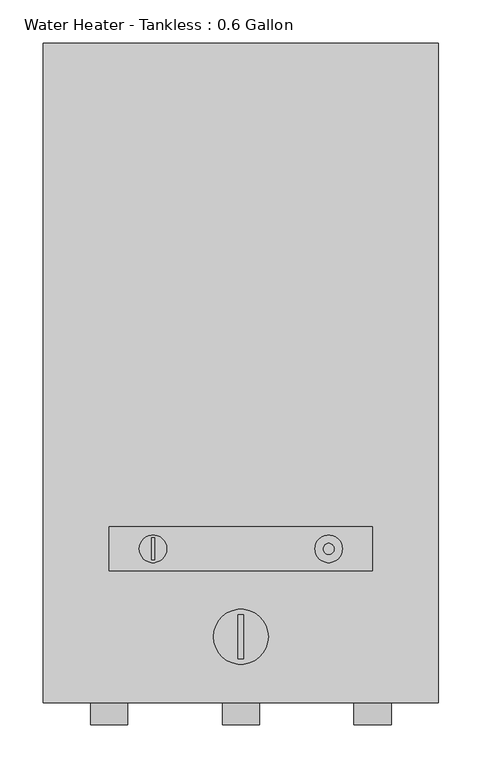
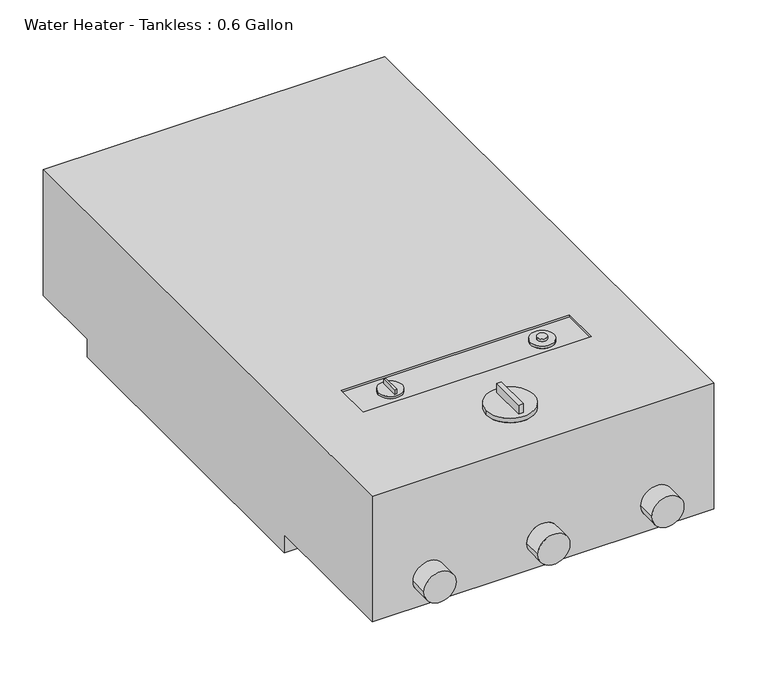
"""IFC4 building model written with IfcOpenShell, lengths in millimetres: proxy geometry, Water Heater - Tankless : 0.6 Gallon."""

from ifc_helpers import new_model, si_unit, point, frame, frame_2d, origin, place, context, project, spatial, circle_curve, trimmed, segment, composite_curve, outline, extrude, source, transform, mapped, element, save
from ifc_brep_helpers import plane_surface, cylinder_surface, advanced_brep


def water_heater_tankless_0_6_gallon_c20ab9af(model_context):
    return source(origin(), model_context, "Body", "SolidModel", [
        advanced_brep(
        [(228.6, 762.0, 25.4), (228.6, 762.0, 203.2), (228.6, 0.0, 203.2), (228.6, 0.0, 25.4), (228.6, 203.2, 25.4), (228.6, 203.2, 0.0), (228.6, 660.4, 0.0), (228.6, 660.4, 25.4), (-228.6, 762.0, 25.4), (-228.6, 660.4, 25.4), (-228.6, 660.4, 0.0), (-228.6, 203.2, 0.0), (-228.6, 203.2, 25.4), (-228.6, 0.0, 25.4), (-228.6, 0.0, 203.2), (-228.6, 762.0, 203.2), (-152.4, 203.2, 203.2), (152.4, 203.2, 203.2), (152.4, 152.4, 203.2), (-152.4, 152.4, 203.2), (31.75, 76.2, 203.2), (-31.75, 76.2, 203.2), (-130.96875, 0.0, 63.5), (-173.83125, 0.0, 63.5), (21.43125, 0.0, 63.5), (-21.43125, 0.0, 63.5), (173.83125, 0.0, 63.5), (130.96875, 0.0, 63.5), (152.4, 203.2, 200.025), (-152.4, 203.2, 200.025), (-152.4, 152.4, 200.025), (152.4, 152.4, 200.025), (-85.725, 177.8, 200.025), (-117.475, 177.8, 200.025), (117.475, 177.8, 200.025), (85.725, 177.8, 200.025), (-173.83125, -25.4, 63.5), (-130.96875, -25.4, 63.5), (-21.43125, -25.4, 63.5), (21.43125, -25.4, 63.5), (130.96875, -25.4, 63.5), (173.83125, -25.4, 63.5), (-117.475, 177.8, 203.2), (-85.725, 177.8, 203.2), (-103.1875, 190.5, 203.2), (-100.0125, 190.5, 203.2), (-100.0125, 165.1, 203.2), (-103.1875, 165.1, 203.2), (85.725, 177.8, 203.2), (117.475, 177.8, 203.2), (107.95, 177.8, 203.2), (95.25, 177.8, 203.2), (95.25, 177.8, 206.375), (107.95, 177.8, 206.375), (-100.0125, 190.5, 209.55), (-103.1875, 190.5, 209.55), (-103.1875, 165.1, 209.55), (-100.0125, 165.1, 209.55), (-31.75, 76.2, 209.55), (31.75, 76.2, 209.55), (-3.175, 101.6, 209.55), (3.175, 101.6, 209.55), (3.175, 50.8, 209.55), (-3.175, 50.8, 209.55), (3.175, 101.6, 222.25), (-3.175, 101.6, 222.25), (-3.175, 50.8, 222.25), (3.175, 50.8, 222.25)],
        [
            (0, 1),
            (1, 2),
            (2, 3),
            (3, 4),
            (4, 5),
            (5, 6),
            (6, 7),
            (7, 0),
            (8, 9),
            (9, 10),
            (10, 11),
            (11, 12),
            (12, 13),
            (13, 14),
            (14, 15),
            (15, 8),
            (0, 8),
            (15, 1),
            (14, 2),
            (16, 17),
            (17, 18),
            (18, 19),
            (19, 16),
            (20, 21, circle_curve(frame((0.0, 76.2, 203.2), z_axis=(0.0, 0.0, -1.0), x_axis=(1.0, 0.0, 0.0)), 31.75)),
            (21, 20, circle_curve(frame((0.0, 76.2, 203.2), z_axis=(0.0, 0.0, -1.0), x_axis=(1.0, 0.0, 0.0)), 31.75)),
            (13, 3),
            (22, 23, circle_curve(frame((-152.4, 0.0, 63.5), z_axis=(0.0, 1.0, 0.0), x_axis=(1.0, 0.0, 0.0)), 21.43125)),
            (23, 22, circle_curve(frame((-152.4, 0.0, 63.5), z_axis=(0.0, 1.0, 0.0), x_axis=(1.0, 0.0, 0.0)), 21.43125)),
            (24, 25, circle_curve(frame((0.0, 0.0, 63.5), z_axis=(0.0, 1.0, 0.0), x_axis=(1.0, 0.0, 0.0)), 21.43125)),
            (25, 24, circle_curve(frame((0.0, 0.0, 63.5), z_axis=(0.0, 1.0, 0.0), x_axis=(1.0, 0.0, 0.0)), 21.43125)),
            (26, 27, circle_curve(frame((152.4, 0.0, 63.5), z_axis=(0.0, 1.0, 0.0), x_axis=(1.0, 0.0, 0.0)), 21.43125)),
            (27, 26, circle_curve(frame((152.4, 0.0, 63.5), z_axis=(0.0, 1.0, 0.0), x_axis=(1.0, 0.0, 0.0)), 21.43125)),
            (12, 4),
            (11, 5),
            (10, 6),
            (9, 7),
            (28, 29),
            (29, 30),
            (30, 31),
            (31, 28),
            (32, 33, circle_curve(frame((-101.6, 177.8, 200.025), z_axis=(0.0, 0.0, -1.0), x_axis=(1.0, 0.0, 0.0)), 15.875)),
            (33, 32, circle_curve(frame((-101.6, 177.8, 200.025), z_axis=(0.0, 0.0, -1.0), x_axis=(1.0, 0.0, 0.0)), 15.875)),
            (34, 35, circle_curve(frame((101.6, 177.8, 200.025), z_axis=(0.0, 0.0, -1.0), x_axis=(1.0, 0.0, 0.0)), 15.875)),
            (35, 34, circle_curve(frame((101.6, 177.8, 200.025), z_axis=(0.0, 0.0, -1.0), x_axis=(1.0, 0.0, 0.0)), 15.875)),
            (28, 17),
            (16, 29),
            (19, 30),
            (18, 31),
            (36, 37, circle_curve(frame((-152.4, -25.4, 63.5), z_axis=(0.0, -1.0, 0.0), x_axis=(1.0, 0.0, 0.0)), 21.43125)),
            (37, 36, circle_curve(frame((-152.4, -25.4, 63.5), z_axis=(0.0, -1.0, 0.0), x_axis=(1.0, 0.0, 0.0)), 21.43125)),
            (38, 39, circle_curve(frame((0.0, -25.4, 63.5), z_axis=(0.0, -1.0, 0.0), x_axis=(1.0, 0.0, 0.0)), 21.43125)),
            (39, 38, circle_curve(frame((0.0, -25.4, 63.5), z_axis=(0.0, -1.0, 0.0), x_axis=(1.0, 0.0, 0.0)), 21.43125)),
            (40, 41, circle_curve(frame((152.4, -25.4, 63.5), z_axis=(0.0, -1.0, 0.0), x_axis=(1.0, 0.0, 0.0)), 21.43125)),
            (41, 40, circle_curve(frame((152.4, -25.4, 63.5), z_axis=(0.0, -1.0, 0.0), x_axis=(1.0, 0.0, 0.0)), 21.43125)),
            (36, 23),
            (22, 37),
            (38, 25),
            (24, 39),
            (40, 27),
            (26, 41),
            (42, 43, circle_curve(frame((-101.6, 177.8, 203.2), z_axis=(0.0, 0.0, 1.0), x_axis=(1.0, 0.0, 0.0)), 15.875)),
            (43, 42, circle_curve(frame((-101.6, 177.8, 203.2), z_axis=(0.0, 0.0, 1.0), x_axis=(1.0, 0.0, 0.0)), 15.875)),
            (44, 45),
            (45, 46),
            (46, 47),
            (47, 44),
            (48, 49, circle_curve(frame((101.6, 177.8, 203.2), z_axis=(0.0, 0.0, 1.0), x_axis=(1.0, 0.0, 0.0)), 15.875)),
            (49, 48, circle_curve(frame((101.6, 177.8, 203.2), z_axis=(0.0, 0.0, 1.0), x_axis=(1.0, 0.0, 0.0)), 15.875)),
            (50, 51, circle_curve(frame((101.6, 177.8, 203.2), z_axis=(0.0, 0.0, -1.0), x_axis=(1.0, 0.0, 0.0)), 6.35)),
            (51, 50, circle_curve(frame((101.6, 177.8, 203.2), z_axis=(0.0, 0.0, -1.0), x_axis=(1.0, 0.0, 0.0)), 6.35)),
            (42, 33),
            (32, 43),
            (48, 35),
            (34, 49),
            (52, 53, circle_curve(frame((101.6, 177.8, 206.375), z_axis=(0.0, 0.0, 1.0), x_axis=(1.0, 0.0, 0.0)), 6.35)),
            (53, 52, circle_curve(frame((101.6, 177.8, 206.375), z_axis=(0.0, 0.0, 1.0), x_axis=(1.0, 0.0, 0.0)), 6.35)),
            (52, 51),
            (50, 53),
            (54, 55),
            (55, 56),
            (56, 57),
            (57, 54),
            (54, 45),
            (44, 55),
            (47, 56),
            (46, 57),
            (58, 59, circle_curve(frame((0.0, 76.2, 209.55), z_axis=(0.0, 0.0, 1.0), x_axis=(1.0, 0.0, 0.0)), 31.75)),
            (59, 58, circle_curve(frame((0.0, 76.2, 209.55), z_axis=(0.0, 0.0, 1.0), x_axis=(1.0, 0.0, 0.0)), 31.75)),
            (60, 61),
            (61, 62),
            (62, 63),
            (63, 60),
            (58, 21),
            (20, 59),
            (64, 65),
            (65, 66),
            (66, 67),
            (67, 64),
            (64, 61),
            (60, 65),
            (63, 66),
            (62, 67),
        ],
        [
            plane_surface(frame((228.6, 762.0, 203.2), z_axis=(1.0, 0.0, 0.0), x_axis=(0.0, 0.0, 1.0))),
            plane_surface(frame((-228.6, 762.0, 203.2), z_axis=(-1.0, 0.0, 0.0), x_axis=(0.0, 0.0, -1.0))),
            plane_surface(frame((228.6, 762.0, 25.4), z_axis=(0.0, 1.0, 0.0), x_axis=(-1.0, 0.0, 0.0))),
            plane_surface(frame((228.6, 762.0, 203.2), z_axis=(0.0, 0.0, 1.0), x_axis=(-1.0, 0.0, 0.0))),
            plane_surface(frame((228.6, 0.0, 203.2), z_axis=(0.0, -1.0, 0.0), x_axis=(-1.0, 0.0, 0.0))),
            plane_surface(frame((228.6, 0.0, 25.4), z_axis=(0.0, 0.0, -1.0), x_axis=(-1.0, 0.0, 0.0))),
            plane_surface(frame((228.6, 203.2, 25.4), z_axis=(0.0, -1.0, 0.0), x_axis=(-1.0, 0.0, 0.0))),
            plane_surface(frame((228.6, 203.2, 0.0), z_axis=(0.0, 0.0, -1.0), x_axis=(-1.0, 0.0, 0.0))),
            plane_surface(frame((228.6, 660.4, 0.0), z_axis=(0.0, 1.0, 0.0), x_axis=(-1.0, 0.0, 0.0))),
            plane_surface(frame((228.6, 660.4, 25.4), z_axis=(0.0, 0.0, -1.0), x_axis=(-1.0, 0.0, 0.0))),
            plane_surface(frame((-152.4, 203.2, 200.025), z_axis=(0.0, 0.0, 1.0), x_axis=(1.0, 0.0, 0.0))),
            plane_surface(frame((152.4, 203.2, 203.2), z_axis=(0.0, -1.0, 0.0), x_axis=(0.0, 0.0, -1.0))),
            plane_surface(frame((-152.4, 203.2, 203.2), z_axis=(1.0, 0.0, 0.0), x_axis=(0.0, 0.0, -1.0))),
            plane_surface(frame((-152.4, 152.4, 203.2), z_axis=(0.0, 1.0, 0.0), x_axis=(0.0, 0.0, -1.0))),
            plane_surface(frame((152.4, 152.4, 203.2), z_axis=(-1.0, 0.0, 0.0), x_axis=(0.0, 0.0, -1.0))),
            plane_surface(frame((-130.96875, -25.4, 63.5), z_axis=(0.0, -1.0, 0.0), x_axis=(0.0, 0.0, 1.0))),
            cylinder_surface(frame((-152.4, 0.0, 63.5), z_axis=(0.0, -1.0, 0.0), x_axis=(1.0, 0.0, 0.0)), 21.43125),
            cylinder_surface(frame((0.0, 0.0, 63.5), z_axis=(0.0, -1.0, 0.0), x_axis=(1.0, 0.0, 0.0)), 21.43125),
            cylinder_surface(frame((152.4, 0.0, 63.5), z_axis=(0.0, -1.0, 0.0), x_axis=(1.0, 0.0, 0.0)), 21.43125),
            plane_surface(frame((-85.725, 177.8, 203.2), z_axis=(0.0, 0.0, 1.0), x_axis=(0.0, 1.0, 0.0))),
            cylinder_surface(frame((-101.6, 177.8, 200.025), z_axis=(0.0, 0.0, 1.0), x_axis=(1.0, 0.0, 0.0)), 15.875),
            cylinder_surface(frame((101.6, 177.8, 0.0), z_axis=(0.0, 0.0, 1.0), x_axis=(1.0, 0.0, 0.0)), 15.875),
            plane_surface(frame((107.95, 177.8, 206.375), z_axis=(0.0, 0.0, 1.0), x_axis=(0.0, 1.0, 0.0))),
            cylinder_surface(frame((101.6, 177.8, 203.2), z_axis=(0.0, 0.0, 1.0), x_axis=(1.0, 0.0, 0.0)), 6.35),
            plane_surface(frame((-103.1875, 190.5, 209.55), z_axis=(0.0, 0.0, 1.0), x_axis=(-1.0, 0.0, 0.0))),
            plane_surface(frame((-100.0125, 190.5, 209.55), z_axis=(0.0, 1.0, 0.0), x_axis=(0.0, 0.0, -1.0))),
            plane_surface(frame((-103.1875, 190.5, 209.55), z_axis=(-1.0, 0.0, 0.0), x_axis=(0.0, 0.0, -1.0))),
            plane_surface(frame((-103.1875, 165.1, 209.55), z_axis=(0.0, -1.0, 0.0), x_axis=(0.0, 0.0, -1.0))),
            plane_surface(frame((-100.0125, 165.1, 209.55), z_axis=(1.0, 0.0, 0.0), x_axis=(0.0, 0.0, -1.0))),
            plane_surface(frame((31.75, 76.2, 209.55), z_axis=(0.0, 0.0, 1.0), x_axis=(0.0, 1.0, 0.0))),
            cylinder_surface(frame((0.0, 76.2, 203.2), z_axis=(0.0, 0.0, 1.0), x_axis=(1.0, 0.0, 0.0)), 31.75),
            plane_surface(frame((-3.175, 101.6, 222.25), z_axis=(0.0, 0.0, 1.0), x_axis=(-1.0, 0.0, 0.0))),
            plane_surface(frame((3.175, 101.6, 222.25), z_axis=(0.0, 1.0, 0.0), x_axis=(0.0, 0.0, -1.0))),
            plane_surface(frame((-3.175, 101.6, 222.25), z_axis=(-1.0, 0.0, 0.0), x_axis=(0.0, 0.0, -1.0))),
            plane_surface(frame((-3.175, 50.8, 222.25), z_axis=(0.0, -1.0, 0.0), x_axis=(0.0, 0.0, -1.0))),
            plane_surface(frame((3.175, 50.8, 222.25), z_axis=(1.0, 0.0, 0.0), x_axis=(0.0, 0.0, -1.0))),
        ],
        [
            (0, [[1, 2, 3, 4, 5, 6, 7, 8]]),
            (1, [[9, 10, 11, 12, 13, 14, 15, 16]]),
            (2, [[-1, 17, -16, 18]]),
            (3, [[-2, -18, -15, 19], [20, 21, 22, 23], [24, 25]]),
            (4, [[-3, -19, -14, 26], [27, 28], [29, 30], [31, 32]]),
            (5, [[-4, -26, -13, 33]]),
            (6, [[-5, -33, -12, 34]]),
            (7, [[-6, -34, -11, 35]]),
            (8, [[-7, -35, -10, 36]]),
            (9, [[-8, -36, -9, -17]]),
            (10, [[37, 38, 39, 40], [41, 42], [43, 44]]),
            (11, [[-37, 45, -20, 46]]),
            (12, [[-38, -46, -23, 47]]),
            (13, [[-39, -47, -22, 48]]),
            (14, [[-40, -48, -21, -45]]),
            (15, [[49, 50]]),
            (15, [[51, 52]]),
            (15, [[53, 54]]),
            (16, [[-49, 55, -27, 56]]),
            (16, [[-50, -56, -28, -55]]),
            (17, [[-51, 57, -29, 58]]),
            (17, [[-52, -58, -30, -57]]),
            (18, [[-53, 59, -31, 60]]),
            (18, [[-54, -60, -32, -59]]),
            (19, [[61, 62], [63, 64, 65, 66]]),
            (19, [[67, 68], [69, 70]]),
            (20, [[-61, 71, -41, 72]]),
            (20, [[-62, -72, -42, -71]]),
            (21, [[-67, 73, -43, 74]]),
            (21, [[-68, -74, -44, -73]]),
            (22, [[75, 76]]),
            (23, [[-75, 77, -69, 78]]),
            (23, [[-76, -78, -70, -77]]),
            (24, [[79, 80, 81, 82]]),
            (25, [[-79, 83, -63, 84]]),
            (26, [[-80, -84, -66, 85]]),
            (27, [[-81, -85, -65, 86]]),
            (28, [[-82, -86, -64, -83]]),
            (29, [[87, 88], [89, 90, 91, 92]]),
            (30, [[-87, 93, -24, 94]]),
            (30, [[-88, -94, -25, -93]]),
            (31, [[95, 96, 97, 98]]),
            (32, [[-95, 99, -89, 100]]),
            (33, [[-96, -100, -92, 101]]),
            (34, [[-97, -101, -91, 102]]),
            (35, [[-98, -102, -90, -99]]),
        ],
    ),
        extrude(outline(composite_curve([segment(trimmed(circle_curve(frame_2d((0.0, 152.4)), 3.175), [point((-3.175, 152.4))], [point((3.175, 152.4))], False, "CARTESIAN"), True, "CONTINUOUS"), segment(trimmed(circle_curve(frame_2d((0.0, 152.4)), 3.175), [point((3.175, 152.4))], [point((-3.175, 152.4))], False, "CARTESIAN"), True, "CONTINUOUS")], self_intersect=False)), frame((0.0, 0.0, 25.4), z_axis=(0.0, 0.0, 1.0), x_axis=(1.0, 0.0, 0.0)), (0.0, 0.0, 1.0), 38.1),
    ])


if __name__ == "__main__":
    model = new_model("IFC4")
    model_context = context("Model", 3, world=origin())
    ifc_project = project(units=[si_unit("LENGTHUNIT", "METRE", prefix="MILLI")], contexts=[model_context])
    site = spatial("IfcSite", under=ifc_project)
    building = spatial("IfcBuilding", under=site)
    placement = place(None, origin())
    water_heater_tankless_0_6_gallon_shape = water_heater_tankless_0_6_gallon_c20ab9af(model_context)
    element("IfcBuildingElementProxy", 1, Name="Water Heater - Tankless : 0.6 Gallon", ObjectType="Water Heater - Tankless : 0.6 Gallon", at=placement, inside=building, context=model_context, shape_type="MappedRepresentation", body=[
        mapped(water_heater_tankless_0_6_gallon_shape, transform((0.0, 0.0, 0.0), x_axis=(1.0, 0.0, 0.0), y_axis=(0.0, 1.0, 0.0), z_axis=(0.0, 0.0, 1.0))),
    ])
    save(model, "model.ifc")
